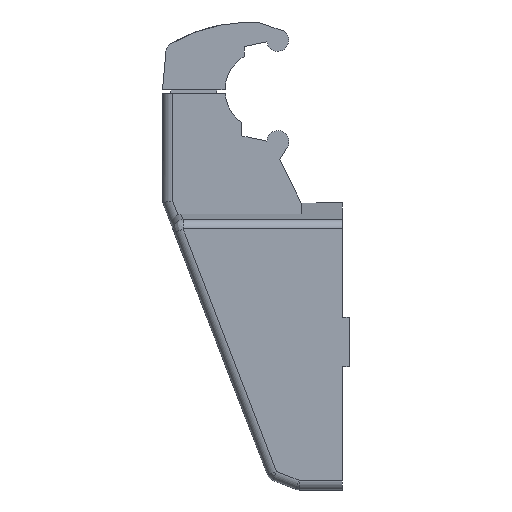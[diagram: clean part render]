
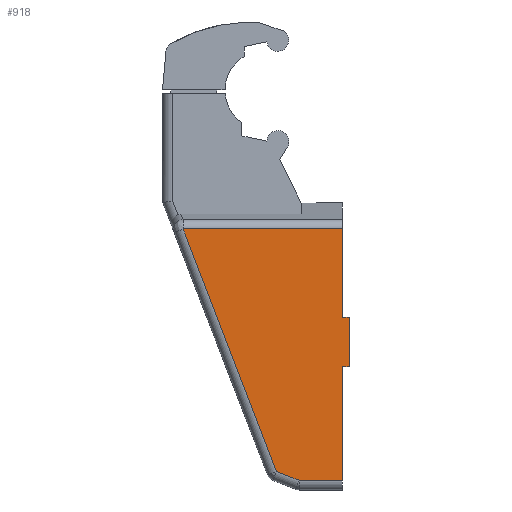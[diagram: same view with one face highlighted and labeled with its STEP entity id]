
A CAD part, left-side view. The second image highlights one B-rep face of the part: STEP entity #918.
In plain terms, the highlighted planar face has unit normal (-1, 0, 0).
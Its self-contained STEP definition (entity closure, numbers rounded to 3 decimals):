
#41 = DIRECTION ( 'NONE',  ( 0., 0.359, 0.933 ) ) ;
#47 = EDGE_LOOP ( 'NONE', ( #749, #1085, #619, #2205, #124, #1015, #102, #2273, #3005 ) ) ;
#90 = VERTEX_POINT ( 'NONE', #1696 ) ;
#102 = ORIENTED_EDGE ( 'NONE', *, *, #2255, .F. ) ;
#124 = ORIENTED_EDGE ( 'NONE', *, *, #1034, .F. ) ;
#171 = VECTOR ( 'NONE', #2818, 1000. ) ;
#271 = DIRECTION ( 'NONE',  ( 1., 0., 0. ) ) ;
#288 = LINE ( 'NONE', #446, #171 ) ;
#332 = LINE ( 'NONE', #2609, #646 ) ;
#376 = EDGE_CURVE ( 'NONE', #1977, #859, #288, .T. ) ;
#417 = VERTEX_POINT ( 'NONE', #2111 ) ;
#446 = CARTESIAN_POINT ( 'NONE',  ( 178.01, -154.8, -5.516 ) ) ;
#460 = EDGE_CURVE ( 'NONE', #859, #1532, #332, .T. ) ;
#499 = DIRECTION ( 'NONE',  ( 0., 1., 0. ) ) ;
#555 = CARTESIAN_POINT ( 'NONE',  ( 178.01, -153.35, 23.201 ) ) ;
#559 = VECTOR ( 'NONE', #41, 1000. ) ;
#619 = ORIENTED_EDGE ( 'NONE', *, *, #376, .F. ) ;
#646 = VECTOR ( 'NONE', #701, 1000. ) ;
#658 = LINE ( 'NONE', #916, #1723 ) ;
#683 = DIRECTION ( 'NONE',  ( 0., 0.93, 0.367 ) ) ;
#701 = DIRECTION ( 'NONE',  ( 0., 0., -1. ) ) ;
#749 = ORIENTED_EDGE ( 'NONE', *, *, #2181, .F. ) ;
#765 = VECTOR ( 'NONE', #683, 1000. ) ;
#859 = VERTEX_POINT ( 'NONE', #1672 ) ;
#916 = CARTESIAN_POINT ( 'NONE',  ( 178.01, -137.119, -29.116 ) ) ;
#918 = ADVANCED_FACE ( 'NONE', ( #2459 ), #1422, .F. ) ;
#974 = VERTEX_POINT ( 'NONE', #1961 ) ;
#975 = VERTEX_POINT ( 'NONE', #555 ) ;
#1015 = ORIENTED_EDGE ( 'NONE', *, *, #1879, .F. ) ;
#1034 = EDGE_CURVE ( 'NONE', #2159, #1798, #1156, .T. ) ;
#1049 = DIRECTION ( 'NONE',  ( 0., 0., -1. ) ) ;
#1062 = LINE ( 'NONE', #1374, #765 ) ;
#1085 = ORIENTED_EDGE ( 'NONE', *, *, #460, .F. ) ;
#1156 = LINE ( 'NONE', #2248, #1867 ) ;
#1374 = CARTESIAN_POINT ( 'NONE',  ( 178.01, -144.33, -29.116 ) ) ;
#1399 = EDGE_CURVE ( 'NONE', #974, #90, #2356, .T. ) ;
#1401 = CARTESIAN_POINT ( 'NONE',  ( 178.01, -153.35, 4.884 ) ) ;
#1422 = PLANE ( 'NONE',  #2157 ) ;
#1448 = CARTESIAN_POINT ( 'NONE',  ( 178.01, -139.924, -28.077 ) ) ;
#1508 = CARTESIAN_POINT ( 'NONE',  ( 178.01, -153.35, 11.905 ) ) ;
#1513 = DIRECTION ( 'NONE',  ( 0., -1., 0. ) ) ;
#1532 = VERTEX_POINT ( 'NONE', #2691 ) ;
#1539 = LINE ( 'NONE', #1508, #2610 ) ;
#1659 = CARTESIAN_POINT ( 'NONE',  ( 178.01, -137.119, 11.905 ) ) ;
#1672 = CARTESIAN_POINT ( 'NONE',  ( 178.01, -153.35, -5.516 ) ) ;
#1696 = CARTESIAN_POINT ( 'NONE',  ( 178.01, -120.202, 23.201 ) ) ;
#1723 = VECTOR ( 'NONE', #1892, 1000. ) ;
#1798 = VERTEX_POINT ( 'NONE', #2381 ) ;
#1867 = VECTOR ( 'NONE', #1513, 1000. ) ;
#1876 = CARTESIAN_POINT ( 'NONE',  ( 178.01, -137.119, 23.201 ) ) ;
#1879 = EDGE_CURVE ( 'NONE', #975, #2159, #1539, .T. ) ;
#1892 = DIRECTION ( 'NONE',  ( 0., 1., 0. ) ) ;
#1961 = CARTESIAN_POINT ( 'NONE',  ( 178.01, -139.608, -27.257 ) ) ;
#1977 = VERTEX_POINT ( 'NONE', #2754 ) ;
#2044 = EDGE_CURVE ( 'NONE', #1798, #1977, #2428, .T. ) ;
#2111 = CARTESIAN_POINT ( 'NONE',  ( 178.01, -144.33, -29.116 ) ) ;
#2133 = EDGE_CURVE ( 'NONE', #417, #974, #1062, .T. ) ;
#2157 = AXIS2_PLACEMENT_3D ( 'NONE', #1659, #271, #499 ) ;
#2159 = VERTEX_POINT ( 'NONE', #1401 ) ;
#2165 = VECTOR ( 'NONE', #2365, 1000. ) ;
#2181 = EDGE_CURVE ( 'NONE', #1532, #417, #658, .T. ) ;
#2205 = ORIENTED_EDGE ( 'NONE', *, *, #2044, .F. ) ;
#2208 = VECTOR ( 'NONE', #2309, 1000. ) ;
#2248 = CARTESIAN_POINT ( 'NONE',  ( 178.01, -153.35, 4.884 ) ) ;
#2255 = EDGE_CURVE ( 'NONE', #90, #975, #2872, .T. ) ;
#2273 = ORIENTED_EDGE ( 'NONE', *, *, #1399, .F. ) ;
#2309 = DIRECTION ( 'NONE',  ( 0., 0., -1. ) ) ;
#2356 = LINE ( 'NONE', #1448, #559 ) ;
#2365 = DIRECTION ( 'NONE',  ( 0., -1., 0. ) ) ;
#2381 = CARTESIAN_POINT ( 'NONE',  ( 178.01, -154.8, 4.884 ) ) ;
#2428 = LINE ( 'NONE', #2997, #2208 ) ;
#2459 = FACE_OUTER_BOUND ( 'NONE', #47, .T. ) ;
#2609 = CARTESIAN_POINT ( 'NONE',  ( 178.01, -153.35, 11.905 ) ) ;
#2610 = VECTOR ( 'NONE', #1049, 1000. ) ;
#2691 = CARTESIAN_POINT ( 'NONE',  ( 178.01, -153.35, -29.116 ) ) ;
#2754 = CARTESIAN_POINT ( 'NONE',  ( 178.01, -154.8, -5.516 ) ) ;
#2818 = DIRECTION ( 'NONE',  ( 0., 1., 0. ) ) ;
#2872 = LINE ( 'NONE', #1876, #2165 ) ;
#2997 = CARTESIAN_POINT ( 'NONE',  ( 178.01, -154.8, 11.905 ) ) ;
#3005 = ORIENTED_EDGE ( 'NONE', *, *, #2133, .F. ) ;
